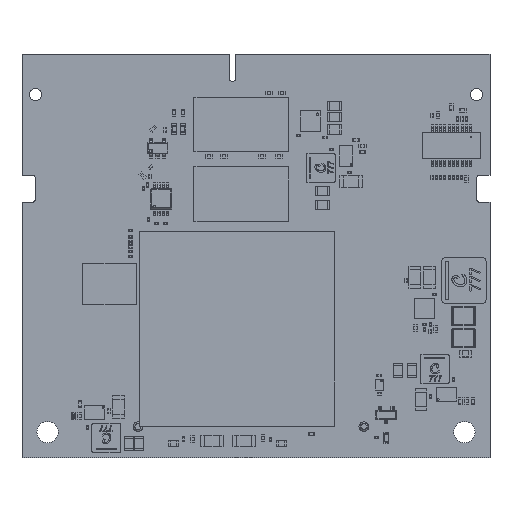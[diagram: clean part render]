
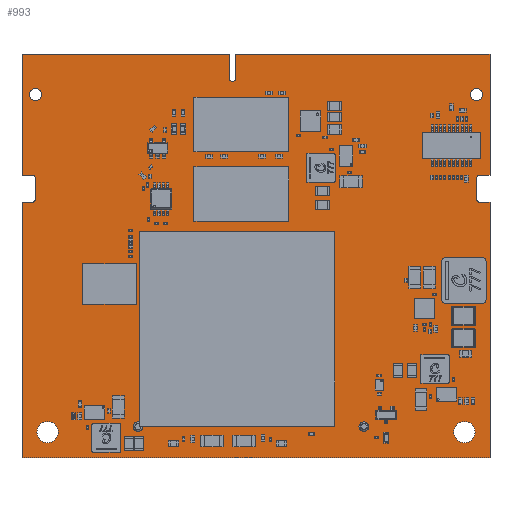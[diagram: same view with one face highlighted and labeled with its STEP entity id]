
A CAD part, top view. The second image highlights one B-rep face of the part: STEP entity #993.
In plain terms, the highlighted planar face has unit normal (0, 0, 1).
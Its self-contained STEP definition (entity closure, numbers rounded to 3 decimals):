
#24 = VERTEX_POINT('',#25);
#25 = CARTESIAN_POINT('',(69.6,60.,0.));
#31 = EDGE_CURVE('',#24,#32,#34,.T.);
#32 = VERTEX_POINT('',#33);
#33 = CARTESIAN_POINT('',(69.6,42.,0.));
#34 = LINE('',#35,#36);
#35 = CARTESIAN_POINT('',(69.6,60.,0.));
#36 = VECTOR('',#37,1.);
#37 = DIRECTION('',(0.,-1.,0.));
#64 = VERTEX_POINT('',#65);
#65 = CARTESIAN_POINT('',(31.8,60.,0.));
#71 = EDGE_CURVE('',#64,#24,#72,.T.);
#72 = LINE('',#73,#74);
#73 = CARTESIAN_POINT('',(31.8,60.,0.));
#74 = VECTOR('',#75,1.);
#75 = DIRECTION('',(1.,0.,0.));
#95 = VERTEX_POINT('',#96);
#96 = CARTESIAN_POINT('',(31.8,56.5,0.));
#102 = EDGE_CURVE('',#95,#64,#103,.T.);
#103 = LINE('',#104,#105);
#104 = CARTESIAN_POINT('',(31.8,56.5,0.));
#105 = VECTOR('',#106,1.);
#106 = DIRECTION('',(0.,1.,0.));
#126 = VERTEX_POINT('',#127);
#127 = CARTESIAN_POINT('',(31.8,56.496,0.));
#133 = EDGE_CURVE('',#126,#95,#134,.T.);
#134 = CIRCLE('',#135,0.5);
#135 = AXIS2_PLACEMENT_3D('',#136,#137,#138);
#136 = CARTESIAN_POINT('',(31.3,56.5,0.));
#137 = DIRECTION('',(0.,0.,1.));
#138 = DIRECTION('',(-1.,0.,-0.));
#159 = VERTEX_POINT('',#160);
#160 = CARTESIAN_POINT('',(31.8,56.492,0.));
#166 = EDGE_CURVE('',#159,#126,#167,.T.);
#167 = CIRCLE('',#168,0.5);
#168 = AXIS2_PLACEMENT_3D('',#169,#170,#171);
#169 = CARTESIAN_POINT('',(31.3,56.492,0.));
#170 = DIRECTION('',(0.,0.,1.));
#171 = DIRECTION('',(1.,0.,-0.));
#192 = VERTEX_POINT('',#193);
#193 = CARTESIAN_POINT('',(30.8,56.496,0.));
#199 = EDGE_CURVE('',#192,#159,#200,.T.);
#200 = CIRCLE('',#201,0.5);
#201 = AXIS2_PLACEMENT_3D('',#202,#203,#204);
#202 = CARTESIAN_POINT('',(31.3,56.492,0.));
#203 = DIRECTION('',(0.,0.,1.));
#204 = DIRECTION('',(1.,0.,-0.));
#225 = VERTEX_POINT('',#226);
#226 = CARTESIAN_POINT('',(30.8,56.5,0.));
#232 = EDGE_CURVE('',#225,#192,#233,.T.);
#233 = CIRCLE('',#234,0.5);
#234 = AXIS2_PLACEMENT_3D('',#235,#236,#237);
#235 = CARTESIAN_POINT('',(31.3,56.5,0.));
#236 = DIRECTION('',(0.,0.,1.));
#237 = DIRECTION('',(-1.,0.,-0.));
#258 = VERTEX_POINT('',#259);
#259 = CARTESIAN_POINT('',(30.8,60.,0.));
#265 = EDGE_CURVE('',#258,#225,#266,.T.);
#266 = LINE('',#267,#268);
#267 = CARTESIAN_POINT('',(30.8,60.,0.));
#268 = VECTOR('',#269,1.);
#269 = DIRECTION('',(0.,-1.,0.));
#289 = VERTEX_POINT('',#290);
#290 = CARTESIAN_POINT('',(0.,60.,0.));
#296 = EDGE_CURVE('',#289,#258,#297,.T.);
#297 = LINE('',#298,#299);
#298 = CARTESIAN_POINT('',(0.,60.,0.));
#299 = VECTOR('',#300,1.);
#300 = DIRECTION('',(1.,0.,0.));
#320 = VERTEX_POINT('',#321);
#321 = CARTESIAN_POINT('',(0.,42.,0.));
#327 = EDGE_CURVE('',#320,#289,#328,.T.);
#328 = LINE('',#329,#330);
#329 = CARTESIAN_POINT('',(0.,42.,0.));
#330 = VECTOR('',#331,1.);
#331 = DIRECTION('',(0.,1.,0.));
#351 = VERTEX_POINT('',#352);
#352 = CARTESIAN_POINT('',(1.5,42.,0.));
#358 = EDGE_CURVE('',#351,#320,#359,.T.);
#359 = LINE('',#360,#361);
#360 = CARTESIAN_POINT('',(1.5,42.,0.));
#361 = VECTOR('',#362,1.);
#362 = DIRECTION('',(-1.,0.,0.));
#382 = VERTEX_POINT('',#383);
#383 = CARTESIAN_POINT('',(2.,41.5,0.));
#389 = EDGE_CURVE('',#382,#351,#390,.T.);
#390 = CIRCLE('',#391,0.498);
#391 = AXIS2_PLACEMENT_3D('',#392,#393,#394);
#392 = CARTESIAN_POINT('',(1.502,41.502,0.));
#393 = DIRECTION('',(0.,0.,1.));
#394 = DIRECTION('',(1.,-0.003,0.));
#415 = VERTEX_POINT('',#416);
#416 = CARTESIAN_POINT('',(2.,38.5,0.));
#422 = EDGE_CURVE('',#415,#382,#423,.T.);
#423 = LINE('',#424,#425);
#424 = CARTESIAN_POINT('',(2.,38.5,0.));
#425 = VECTOR('',#426,1.);
#426 = DIRECTION('',(0.,1.,0.));
#446 = VERTEX_POINT('',#447);
#447 = CARTESIAN_POINT('',(1.5,38.,0.));
#453 = EDGE_CURVE('',#446,#415,#454,.T.);
#454 = CIRCLE('',#455,0.498);
#455 = AXIS2_PLACEMENT_3D('',#456,#457,#458);
#456 = CARTESIAN_POINT('',(1.502,38.498,0.));
#457 = DIRECTION('',(0.,0.,1.));
#458 = DIRECTION('',(-0.003,-1.,0.));
#479 = VERTEX_POINT('',#480);
#480 = CARTESIAN_POINT('',(0.,38.,0.));
#486 = EDGE_CURVE('',#479,#446,#487,.T.);
#487 = LINE('',#488,#489);
#488 = CARTESIAN_POINT('',(0.,38.,0.));
#489 = VECTOR('',#490,1.);
#490 = DIRECTION('',(1.,0.,0.));
#510 = VERTEX_POINT('',#511);
#511 = CARTESIAN_POINT('',(0.,0.,0.));
#517 = EDGE_CURVE('',#510,#479,#518,.T.);
#518 = LINE('',#519,#520);
#519 = CARTESIAN_POINT('',(0.,0.,0.));
#520 = VECTOR('',#521,1.);
#521 = DIRECTION('',(0.,1.,0.));
#541 = VERTEX_POINT('',#542);
#542 = CARTESIAN_POINT('',(69.6,0.,0.));
#548 = EDGE_CURVE('',#541,#510,#549,.T.);
#549 = LINE('',#550,#551);
#550 = CARTESIAN_POINT('',(69.6,0.,0.));
#551 = VECTOR('',#552,1.);
#552 = DIRECTION('',(-1.,0.,0.));
#572 = VERTEX_POINT('',#573);
#573 = CARTESIAN_POINT('',(69.6,38.,0.));
#579 = EDGE_CURVE('',#572,#541,#580,.T.);
#580 = LINE('',#581,#582);
#581 = CARTESIAN_POINT('',(69.6,38.,0.));
#582 = VECTOR('',#583,1.);
#583 = DIRECTION('',(0.,-1.,0.));
#603 = VERTEX_POINT('',#604);
#604 = CARTESIAN_POINT('',(68.1,38.,0.));
#610 = EDGE_CURVE('',#603,#572,#611,.T.);
#611 = LINE('',#612,#613);
#612 = CARTESIAN_POINT('',(68.1,38.,0.));
#613 = VECTOR('',#614,1.);
#614 = DIRECTION('',(1.,0.,0.));
#634 = VERTEX_POINT('',#635);
#635 = CARTESIAN_POINT('',(67.6,38.5,0.));
#641 = EDGE_CURVE('',#634,#603,#642,.T.);
#642 = CIRCLE('',#643,0.498);
#643 = AXIS2_PLACEMENT_3D('',#644,#645,#646);
#644 = CARTESIAN_POINT('',(68.098,38.498,0.));
#645 = DIRECTION('',(0.,0.,1.));
#646 = DIRECTION('',(-1.,0.003,0.));
#667 = VERTEX_POINT('',#668);
#668 = CARTESIAN_POINT('',(67.6,41.5,0.));
#674 = EDGE_CURVE('',#667,#634,#675,.T.);
#675 = LINE('',#676,#677);
#676 = CARTESIAN_POINT('',(67.6,41.5,0.));
#677 = VECTOR('',#678,1.);
#678 = DIRECTION('',(0.,-1.,0.));
#698 = VERTEX_POINT('',#699);
#699 = CARTESIAN_POINT('',(68.1,42.,0.));
#705 = EDGE_CURVE('',#698,#667,#706,.T.);
#706 = CIRCLE('',#707,0.498);
#707 = AXIS2_PLACEMENT_3D('',#708,#709,#710);
#708 = CARTESIAN_POINT('',(68.098,41.502,0.));
#709 = DIRECTION('',(0.,0.,1.));
#710 = DIRECTION('',(0.003,1.,-0.));
#729 = EDGE_CURVE('',#32,#698,#730,.T.);
#730 = LINE('',#731,#732);
#731 = CARTESIAN_POINT('',(69.6,42.,0.));
#732 = VECTOR('',#733,1.);
#733 = DIRECTION('',(-1.,0.,0.));
#753 = VERTEX_POINT('',#754);
#754 = CARTESIAN_POINT('',(67.377,3.81,0.));
#760 = EDGE_CURVE('',#753,#753,#761,.T.);
#761 = CIRCLE('',#762,1.587);
#762 = AXIS2_PLACEMENT_3D('',#763,#764,#765);
#763 = CARTESIAN_POINT('',(65.79,3.81,0.));
#764 = DIRECTION('',(0.,0.,1.));
#765 = DIRECTION('',(1.,0.,-0.));
#786 = VERTEX_POINT('',#787);
#787 = CARTESIAN_POINT('',(51.564,4.609,0.));
#793 = EDGE_CURVE('',#786,#786,#794,.T.);
#794 = CIRCLE('',#795,0.725);
#795 = AXIS2_PLACEMENT_3D('',#796,#797,#798);
#796 = CARTESIAN_POINT('',(50.839,4.609,0.));
#797 = DIRECTION('',(0.,0.,1.));
#798 = DIRECTION('',(1.,0.,-0.));
#819 = VERTEX_POINT('',#820);
#820 = CARTESIAN_POINT('',(17.964,4.609,0.));
#826 = EDGE_CURVE('',#819,#819,#827,.T.);
#827 = CIRCLE('',#828,0.725);
#828 = AXIS2_PLACEMENT_3D('',#829,#830,#831);
#829 = CARTESIAN_POINT('',(17.239,4.609,0.));
#830 = DIRECTION('',(0.,0.,1.));
#831 = DIRECTION('',(1.,0.,-0.));
#852 = VERTEX_POINT('',#853);
#853 = CARTESIAN_POINT('',(5.397,3.81,0.));
#859 = EDGE_CURVE('',#852,#852,#860,.T.);
#860 = CIRCLE('',#861,1.587);
#861 = AXIS2_PLACEMENT_3D('',#862,#863,#864);
#862 = CARTESIAN_POINT('',(3.81,3.81,0.));
#863 = DIRECTION('',(0.,0.,1.));
#864 = DIRECTION('',(1.,0.,-0.));
#885 = VERTEX_POINT('',#886);
#886 = CARTESIAN_POINT('',(68.5,53.992,0.));
#892 = EDGE_CURVE('',#885,#885,#893,.T.);
#893 = CIRCLE('',#894,0.9);
#894 = AXIS2_PLACEMENT_3D('',#895,#896,#897);
#895 = CARTESIAN_POINT('',(67.6,53.992,0.));
#896 = DIRECTION('',(0.,0.,1.));
#897 = DIRECTION('',(1.,0.,-0.));
#918 = VERTEX_POINT('',#919);
#919 = CARTESIAN_POINT('',(2.9,53.992,0.));
#925 = EDGE_CURVE('',#918,#918,#926,.T.);
#926 = CIRCLE('',#927,0.9);
#927 = AXIS2_PLACEMENT_3D('',#928,#929,#930);
#928 = CARTESIAN_POINT('',(2.,53.992,0.));
#929 = DIRECTION('',(0.,0.,1.));
#930 = DIRECTION('',(1.,0.,-0.));
#993 = ADVANCED_FACE('',(#994,#1019,#1022,#1025,#1028,#1031,#1034),#1037
  ,.F.);
#994 = FACE_BOUND('',#995,.F.);
#995 = EDGE_LOOP('',(#996,#997,#998,#999,#1000,#1001,#1002,#1003,#1004,
    #1005,#1006,#1007,#1008,#1009,#1010,#1011,#1012,#1013,#1014,#1015,
    #1016,#1017,#1018));
#996 = ORIENTED_EDGE('',*,*,#31,.T.);
#997 = ORIENTED_EDGE('',*,*,#729,.T.);
#998 = ORIENTED_EDGE('',*,*,#705,.T.);
#999 = ORIENTED_EDGE('',*,*,#674,.T.);
#1000 = ORIENTED_EDGE('',*,*,#641,.T.);
#1001 = ORIENTED_EDGE('',*,*,#610,.T.);
#1002 = ORIENTED_EDGE('',*,*,#579,.T.);
#1003 = ORIENTED_EDGE('',*,*,#548,.T.);
#1004 = ORIENTED_EDGE('',*,*,#517,.T.);
#1005 = ORIENTED_EDGE('',*,*,#486,.T.);
#1006 = ORIENTED_EDGE('',*,*,#453,.T.);
#1007 = ORIENTED_EDGE('',*,*,#422,.T.);
#1008 = ORIENTED_EDGE('',*,*,#389,.T.);
#1009 = ORIENTED_EDGE('',*,*,#358,.T.);
#1010 = ORIENTED_EDGE('',*,*,#327,.T.);
#1011 = ORIENTED_EDGE('',*,*,#296,.T.);
#1012 = ORIENTED_EDGE('',*,*,#265,.T.);
#1013 = ORIENTED_EDGE('',*,*,#232,.T.);
#1014 = ORIENTED_EDGE('',*,*,#199,.T.);
#1015 = ORIENTED_EDGE('',*,*,#166,.T.);
#1016 = ORIENTED_EDGE('',*,*,#133,.T.);
#1017 = ORIENTED_EDGE('',*,*,#102,.T.);
#1018 = ORIENTED_EDGE('',*,*,#71,.T.);
#1019 = FACE_BOUND('',#1020,.F.);
#1020 = EDGE_LOOP('',(#1021));
#1021 = ORIENTED_EDGE('',*,*,#760,.T.);
#1022 = FACE_BOUND('',#1023,.F.);
#1023 = EDGE_LOOP('',(#1024));
#1024 = ORIENTED_EDGE('',*,*,#793,.T.);
#1025 = FACE_BOUND('',#1026,.F.);
#1026 = EDGE_LOOP('',(#1027));
#1027 = ORIENTED_EDGE('',*,*,#826,.T.);
#1028 = FACE_BOUND('',#1029,.F.);
#1029 = EDGE_LOOP('',(#1030));
#1030 = ORIENTED_EDGE('',*,*,#859,.T.);
#1031 = FACE_BOUND('',#1032,.F.);
#1032 = EDGE_LOOP('',(#1033));
#1033 = ORIENTED_EDGE('',*,*,#892,.T.);
#1034 = FACE_BOUND('',#1035,.F.);
#1035 = EDGE_LOOP('',(#1036));
#1036 = ORIENTED_EDGE('',*,*,#925,.T.);
#1037 = PLANE('',#1038);
#1038 = AXIS2_PLACEMENT_3D('',#1039,#1040,#1041);
#1039 = CARTESIAN_POINT('',(34.704,31.016,0.));
#1040 = DIRECTION('',(-0.,-0.,-1.));
#1041 = DIRECTION('',(-1.,0.,0.));
